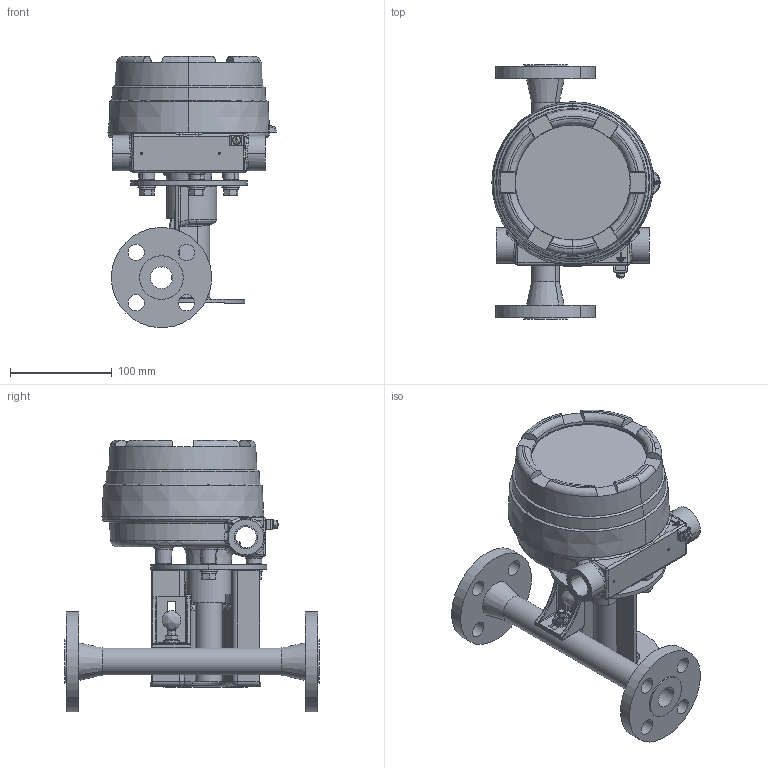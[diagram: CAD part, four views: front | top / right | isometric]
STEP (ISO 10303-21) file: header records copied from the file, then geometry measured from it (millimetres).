
FILE_DESCRIPTION (( 'STEP AP214' ), '1' );
FILE_NAME ('3809G-B-05-F-3-D-0.STEP', '2024-12-05T19:54:43', ( '' ), ( '' ), 'SwSTEP 2.0', 'SolidWorks 2023', '' );
FILE_SCHEMA (( 'AUTOMOTIVE_DESIGN' ));
Length unit declared in the file: inch
Products named in the file (18): 926Y181; 389z122; 854z180_Item-2; 106Y883; 206Z379; XP; 101z106_a; 442c057; Items_101_thru_103; 962D031; 962A031; 3809G-B-05-F-3-D-0; 573b022_a_1; 751D552; 441C668; Items_104-105; 106y895; 092H071_b-body
Assembly tree (33 placements, depth 3):
  3809G-B-05-F-3-D-0
    092H071_b-body
    XP
      442c057
      441C668
      389z122
      206Z379
      106y895
      962D031  x6
      962A031  x6
      751D552  x4
      926Y181
      573b022_a_1  x2
    854z180_Item-2  x3
    Items_101_thru_103
    Items_104-105
      106Y883
      101z106_a
Bounding box: 165.06 x 250 x 266.06 mm (x, y, z)
Volume: 1128497 mm3; surface area: 402486.3 mm2
Topology: 36 solids, 36 shells, 1159 faces, 2715 edges, 1607 vertices
Faces by surface type: cylinder 368, plane 329, cone 204, bspline 166, torus 62, sphere 30
Entity records: 37392 total; most frequent: CARTESIAN_POINT 14604, ORIENTED_EDGE 4628, DIRECTION 4619, EDGE_CURVE 2314, AXIS2_PLACEMENT_3D 1881, VERTEX_POINT 1403, EDGE_LOOP 1117, CIRCLE 1006
